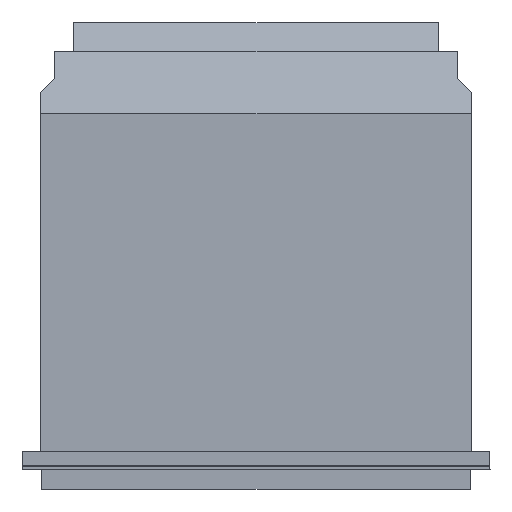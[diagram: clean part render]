
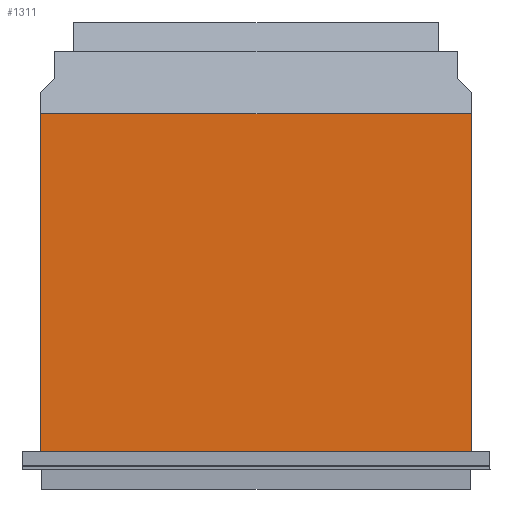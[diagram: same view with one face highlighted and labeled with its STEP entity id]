
A CAD part, top view. The second image highlights one B-rep face of the part: STEP entity #1311.
In plain terms, the highlighted planar face has unit normal (0, 0, 1).
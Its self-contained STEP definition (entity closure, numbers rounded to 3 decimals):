
#257=ORIENTED_EDGE('',*,*,#389,.T.);
#258=ORIENTED_EDGE('',*,*,#324,.F.);
#259=ORIENTED_EDGE('',*,*,#398,.F.);
#260=ORIENTED_EDGE('',*,*,#391,.T.);
#324=EDGE_CURVE('',#441,#442,#535,.T.);
#389=EDGE_CURVE('',#487,#442,#598,.T.);
#391=EDGE_CURVE('',#488,#487,#600,.T.);
#398=EDGE_CURVE('',#488,#441,#607,.T.);
#441=VERTEX_POINT('',#1718);
#442=VERTEX_POINT('',#1719);
#487=VERTEX_POINT('',#1851);
#488=VERTEX_POINT('',#1855);
#535=LINE('',#1717,#656);
#598=LINE('',#1850,#719);
#600=LINE('',#1854,#721);
#607=LINE('',#1868,#728);
#656=VECTOR('',#1470,1000.);
#719=VECTOR('',#1581,1000.);
#721=VECTOR('',#1585,1000.);
#728=VECTOR('',#1600,1000.);
#795=EDGE_LOOP('',(#257,#258,#259,#260));
#859=FACE_BOUND('',#795,.T.);
#909=PLANE('',#1379);
#1311=ADVANCED_FACE('',(#859),#909,.F.);
#1379=AXIS2_PLACEMENT_3D('',#1869,#1601,#1602);
#1470=DIRECTION('',(-1.,0.,0.));
#1581=DIRECTION('',(0.,-1.,0.));
#1585=DIRECTION('',(-1.,0.,0.));
#1600=DIRECTION('',(0.,-1.,0.));
#1601=DIRECTION('',(0.,0.,-1.));
#1602=DIRECTION('',(0.,-1.,0.));
#1717=CARTESIAN_POINT('',(0.,-464.35,260.614));
#1718=CARTESIAN_POINT('',(274.7,-464.35,260.614));
#1719=CARTESIAN_POINT('',(-274.7,-464.35,260.614));
#1850=CARTESIAN_POINT('',(-274.7,-33.975,260.614));
#1851=CARTESIAN_POINT('',(-274.7,-33.975,260.614));
#1854=CARTESIAN_POINT('',(0.,-33.975,260.614));
#1855=CARTESIAN_POINT('',(274.7,-33.975,260.614));
#1868=CARTESIAN_POINT('',(274.7,-33.975,260.614));
#1869=CARTESIAN_POINT('',(0.,-33.975,260.614));
